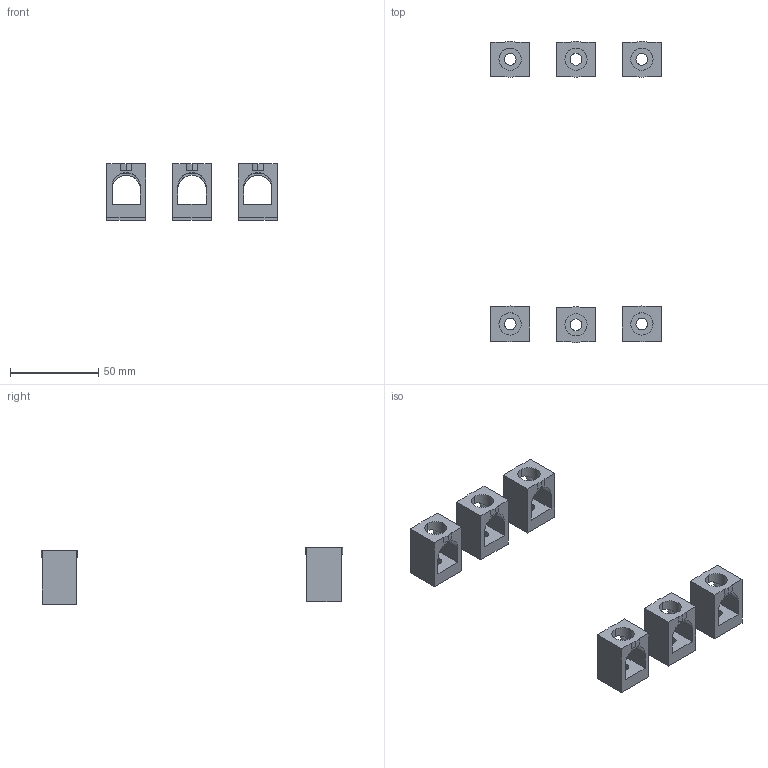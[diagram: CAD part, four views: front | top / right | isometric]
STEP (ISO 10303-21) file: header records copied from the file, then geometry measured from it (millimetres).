
FILE_DESCRIPTION (( 'STEP AP214' ), '1' );
FILE_NAME ('Êîìïëåêò çàæèìîâ îäíîãíåçäíûõ 185 êâ ìì ÂÀ04-36ÂÀ51-35-ÓÕË3 320 À, 400 À.STEP', '2023-07-24T12:36:39', ( '' ), ( '' ), 'SwSTEP 2.0', 'SolidWorks 2018', '' );
FILE_SCHEMA (( 'AUTOMOTIVE_DESIGN' ));
Length unit declared in the file: millimetre
Products named in the file (1): Êîìïëåêò çàæèìîâ îäíîãíåçäíûõ 185 êâ ìì ÂÀ04-36ÂÀ51-35-ÓÕË3 320 À, 400 À
Bounding box: 96.68 x 170.95 x 32 mm (x, y, z)
Volume: 42030.6 mm3; surface area: 24794 mm2
Topology: 6 solids, 6 shells, 114 faces, 306 edges, 204 vertices
Faces by surface type: plane 66, cylinder 48
Entity records: 5495 total; most frequent: CARTESIAN_POINT 1165, ORIENTED_EDGE 612, DIRECTION 608, EDGE_CURVE 306, VECTOR 210, LINE 210, VERTEX_POINT 204, AXIS2_PLACEMENT_3D 199
